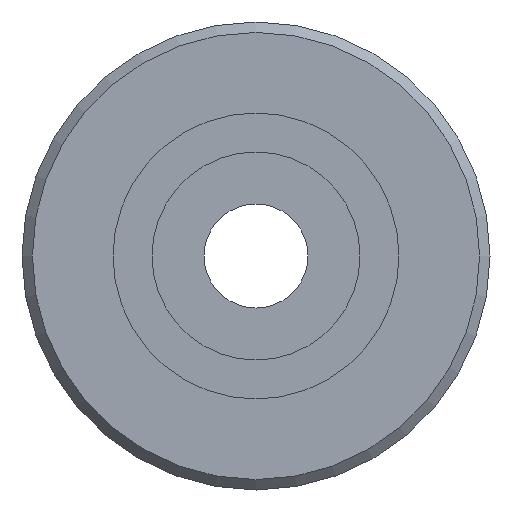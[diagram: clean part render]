
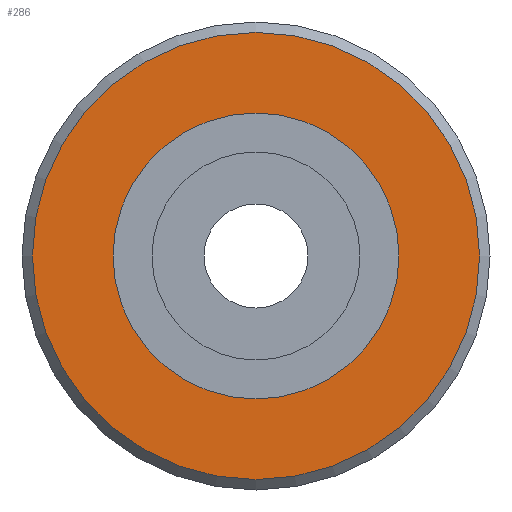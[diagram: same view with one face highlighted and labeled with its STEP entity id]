
A CAD part, left-side view. The second image highlights one B-rep face of the part: STEP entity #286.
In plain terms, the highlighted planar face has unit normal (-1, 0, 0).
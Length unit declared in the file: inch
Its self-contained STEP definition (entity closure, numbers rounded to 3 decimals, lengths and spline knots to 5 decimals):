
#259=CARTESIAN_POINT('',(11.,16.3,0.));
#260=VERTEX_POINT('',#259);
#261=CARTESIAN_POINT('',(11.,12.,0.));
#262=DIRECTION('',(-1.,0.,0.));
#263=DIRECTION('',(0.,1.,0.));
#264=AXIS2_PLACEMENT_3D('',#261,#262,#263);
#265=CIRCLE('',#264,4.3);
#266=EDGE_CURVE('',#260,#260,#265,.T.);
#267=ORIENTED_EDGE('',*,*,#266,.T.);
#268=EDGE_LOOP('',(#267));
#269=FACE_OUTER_BOUND('',#268,.T.);
#270=CARTESIAN_POINT('',(11.,14.75,0.));
#271=VERTEX_POINT('',#270);
#272=CARTESIAN_POINT('',(11.,12.,0.));
#273=DIRECTION('',(-1.,0.,0.));
#274=DIRECTION('',(0.,1.,0.));
#275=AXIS2_PLACEMENT_3D('',#272,#273,#274);
#276=CIRCLE('',#275,2.75);
#277=EDGE_CURVE('',#271,#271,#276,.T.);
#278=ORIENTED_EDGE('',*,*,#277,.F.);
#279=EDGE_LOOP('',(#278));
#280=FACE_BOUND('',#279,.T.);
#281=CARTESIAN_POINT('',(11.,15.525,0.));
#282=DIRECTION('',(-1.,0.,0.));
#283=DIRECTION('',(0.,1.,0.));
#284=AXIS2_PLACEMENT_3D('',#281,#282,#283);
#285=PLANE('',#284);
#286=ADVANCED_FACE('',(#269,#280),#285,.T.);
